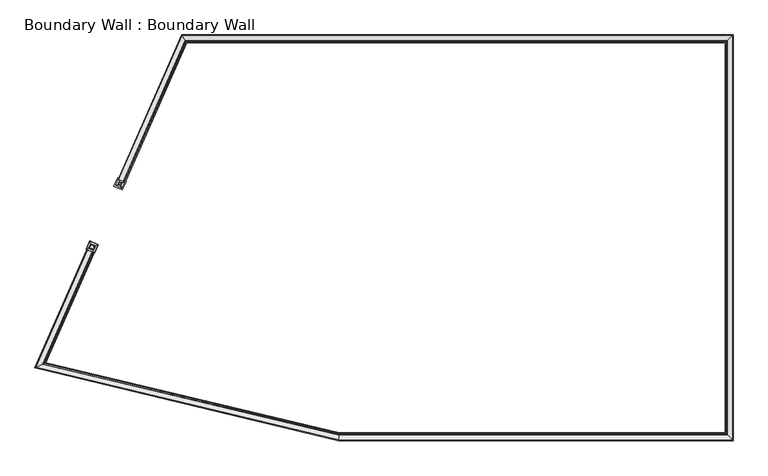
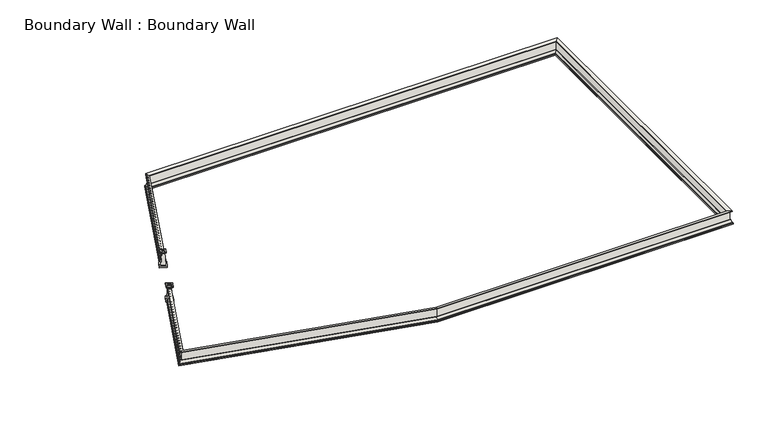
"""IFC4 building model written with IfcOpenShell, lengths in millimetres: wall geometry, Boundary Wall : Boundary Wall."""

from ifc_helpers import new_model, si_unit, origin, origin_with_axes, place, context, project, spatial, polyline, outline, extrude, faceted_brep, source, transform, mapped, element, save


def boundary_wall_boundary_wall_bb9a8aa2(model_context):
    return source(origin(), model_context, "Body", "SolidModel", [
        faceted_brep([(-59276.8997178, -6588.7844489, 3673.3397031), (-59123.4597984, -6983.4127979, 3559.6113653), (-58523.8934099, -5620.9788173, 3559.6113653), (-58918.521759, -5774.4187367, 3673.3397031), (-59351.1438745, -6397.837731, 3237.0053223), (-59351.1438745, -6397.837731, 3673.3397031), (-59109.4684769, -5848.6628934, 3673.3397031), (-59109.4684769, -5848.6628934, 3237.0053223), (-59191.5933372, -6808.1818279, 3291.7285452), (-59269.4602386, -6607.9178622, 3237.0053223), (-58899.3883457, -5766.9792575, 3237.0053223), (-58699.12438, -5689.1123561, 3291.7285452), (-59191.5933372, -6808.1818279, 3371.7285452), (-58699.12438, -5689.1123561, 3371.7285452), (-59123.4597984, -6983.4127979, 3419.6113653), (-58523.8934099, -5620.9788173, 3419.6113653), (-59886.3273906, -5021.4124288, 3559.6113653), (-59732.8874712, -5416.0407779, 3673.3397031), (-59658.6433145, -5606.9874958, 3673.3397031), (-59658.6433145, -5606.9874958, 3237.0053223), (-59740.3269504, -5396.9073646, 3237.0053223), (-59818.1938518, -5196.6433989, 3291.7285452), (-59818.1938518, -5196.6433989, 3371.7285452), (-59886.3273906, -5021.4124288, 3419.6113653), (-60485.893779, -6383.8464095, 3559.6113653), (-60091.26543, -6230.4064901, 3673.3397031), (-59900.3187121, -6156.1623334, 3673.3397031), (-59900.3187121, -6156.1623334, 3237.0053223), (-60110.3988433, -6237.8459693, 3237.0053223), (-60310.662809, -6315.7128707, 3291.7285452), (-60310.662809, -6315.7128707, 3371.7285452), (-60485.893779, -6383.8464095, 3419.6113653)], [[[0, 1, 2, 3]], [[4, 5, 6, 7]], [[8, 9, 10, 11]], [[12, 8, 11, 13]], [[14, 12, 13, 15]], [[1, 14, 15, 2]], [[3, 2, 16, 17]], [[7, 6, 18, 19]], [[11, 10, 20, 21]], [[13, 11, 21, 22]], [[15, 13, 22, 23]], [[2, 15, 23, 16]], [[17, 16, 24, 25]], [[19, 18, 26, 27]], [[21, 20, 28, 29]], [[22, 21, 29, 30]], [[23, 22, 30, 31]], [[16, 23, 31, 24]], [[25, 24, 1, 0]], [[3, 17, 25, 0], [5, 26, 18, 6]], [[27, 26, 5, 4]], [[9, 28, 20, 10], [7, 19, 27, 4]], [[29, 28, 9, 8]], [[30, 29, 8, 12]], [[31, 30, 12, 14]], [[24, 31, 14, 1]]]),
        faceted_brep([(-59351.1438745, -6397.837731, 3456.5358588), (-59109.4684769, -5848.6628934, 3456.5358588), (-59658.6433145, -5606.9874958, 3456.5358588), (-59900.3187121, -6156.1623334, 3456.5358588), (-59248.6440612, -6661.454476, 400.0), (-60163.9354571, -6258.6621467, 400.0), (-59761.1431278, -5343.3707508, 400.0), (-58845.8517319, -5746.1630801, 400.0)], [[[0, 1, 2, 3]], [[4, 5, 6, 7]], [[4, 7, 1, 0]], [[7, 6, 2, 1]], [[6, 5, 3, 2]], [[5, 4, 0, 3]]]),
        extrude(outline(polyline([(-59094.8943412, -7056.8795936), (-60559.3605747, -6412.4118666), (-59914.8928477, -4947.9456332), (-58450.4266143, -5592.4133601), (-59094.8943412, -7056.8795936)])), origin_with_axes(), (0.0, 0.0, 1.0), 400.0),
        faceted_brep([(-60412.1494802, -6490.5078913, -50.0), (-60412.1494802, -6490.5078913, 170.0), (-60302.3260093, -6538.8690868, 170.0), (-60302.3260093, -6538.8690868, 270.0), (-60229.110362, -6571.1098838, 270.0), (-60074.6180327, -6639.1411861, 900.0), (-59928.1867381, -6703.6227802, 900.0), (-59928.1867381, -6703.6227802, 2900.0), (-60001.4023854, -6671.3819832, 2900.0), (-60001.4023854, -6671.3819832, 2940.0), (-60266.6057026, -6554.5986637, 3017.6457135), (-60266.6057026, -6554.5986637, 3162.5843788), (-59582.9541202, -6855.6473156, 2962.4261927), (-59582.9541202, -6855.6473156, 2852.0015247), (-59653.6280608, -6824.525769, 2872.6933041), (-59653.6280608, -6824.525769, 900.0), (-59507.1967662, -6889.0073631, 900.0), (-59352.7044369, -6957.0386654, 270.0), (-59279.4887897, -6989.2794624, 270.0), (-59279.4887897, -6989.2794624, 170.0), (-59169.6653187, -7037.6406579, 170.0), (-59169.6653187, -7037.6406579, -50.0), (-69526.2782327, -27187.7888998, -50.0), (-69526.2782327, -27187.7888998, 170.0), (-16404.219745, -39902.6148653, 170.0), (52662.4134102, -39902.6148653, 170.0), (52662.4134102, 31097.3851347, 170.0), (-43860.1735742, 31097.3851347, 170.0), (-54890.3281159, 6048.9998949, 170.0), (-54781.0056724, 5999.5009158, 170.0), (-43781.8965314, 30977.3851347, 170.0), (52542.4134102, 30977.3851347, 170.0), (52542.4134102, -39782.6148653, 170.0), (-16390.0586697, -39782.6148653, 170.0), (-69358.5066746, -27104.555746, 170.0), (-69358.5066746, -27104.555746, 270.0), (-16390.0586697, -39782.6148653, 270.0), (52542.4134102, -39782.6148653, 270.0), (52542.4134102, 30977.3851347, 270.0), (-43781.8965314, 30977.3851347, 270.0), (-54781.0056724, 5999.5009158, 270.0), (-54708.1240434, 5966.5015964, 270.0), (-43729.7118362, 30897.3851347, 270.0), (52462.4134102, 30897.3851347, 270.0), (52462.4134102, -39702.6148653, 270.0), (-16380.6179528, -39702.6148653, 270.0), (-69246.6589693, -27049.0669768, 270.0), (-69010.6491384, -26931.980131, 900.0), (-16360.6970972, -39533.806874, 900.0), (52293.6054189, -39533.806874, 900.0), (52293.6054189, 30728.5771435, 900.0), (-43619.5969165, 30728.5771435, 900.0), (-54688.4318976, 5592.3524684, 900.0), (-54542.6686396, 5526.3538296, 900.0), (-43515.2275261, 30568.5771435, 900.0), (52133.6054189, 30568.5771435, 900.0), (52133.6054189, -39373.806874, 900.0), (-16341.8156634, -39373.806874, 900.0), (-68786.9537277, -26821.0025926, 900.0), (-68786.9537277, -26821.0025926, 2900.0), (-16341.8156634, -39373.806874, 2900.0), (52133.6054189, -39373.806874, 2900.0), (52133.6054189, 30568.5771435, 2900.0), (-43515.2275261, 30568.5771435, 2900.0), (-54595.4122172, 5406.5784045, 2900.0), (-54668.2938461, 5439.5777239, 2900.0), (-43567.4122213, 30648.5771435, 2900.0), (52213.6054189, 30648.5771435, 2900.0), (52213.6054189, -39453.806874, 2900.0), (-16351.2563803, -39453.806874, 2900.0), (-68898.8014331, -26876.4913618, 2900.0), (-68898.8014331, -26876.4913618, 2940.0), (-69303.9386352, -27077.483994, 3017.6457135), (-69303.9386352, -27077.483994, 3162.5843788), (-68259.5599593, -26559.3572509, 2962.4261927), (-68259.5599593, -26559.3572509, 2852.0015247), (-68367.5248326, -26612.9197081, 2872.6933041), (-68367.5248326, -26612.9197081, 900.0), (-16306.4129752, -39073.806874, 900.0), (51833.6054189, -39073.806874, 900.0), (51833.6054189, 30268.5771435, 900.0), (-43319.5349191, 30268.5771435, 900.0), (-54269.362531, 5402.6063817, 900.0), (-54123.599273, 5336.6077429, 900.0), (-43215.1655287, 30108.5771435, 900.0), (51673.6054189, 30108.5771435, 900.0), (51673.6054189, -38913.806874, 900.0), (-16287.5315415, -38913.806874, 900.0), (-68143.8294219, -26501.9421698, 900.0), (-67907.8195911, -26384.855324, 270.0), (-16267.6106858, -38744.9988828, 270.0), (51504.7974277, -38744.9988828, 270.0), (51504.7974277, 29939.7691523, 270.0), (-43105.0506091, 29939.7691523, 270.0), (-53835.7163843, 5571.4931502, 270.0), (-53762.8347553, 5538.4938308, 270.0), (-43052.8659138, 29859.7691523, 270.0), (51424.7974277, 29859.7691523, 270.0), (51424.7974277, -38664.9988828, 270.0), (-16258.169969, -38664.9988828, 270.0), (-67795.9718857, -26329.3665548, 270.0), (-67795.9718857, -26329.3665548, 170.0), (-16258.169969, -38664.9988828, 170.0), (51424.7974277, -38664.9988828, 170.0), (51424.7974277, 29859.7691523, 170.0), (-43052.8659138, 29859.7691523, 170.0), (-53762.8347553, 5538.4938308, 170.0), (-53653.5123118, 5488.9948517, 170.0), (-42974.588871, 29739.7691523, 170.0), (51304.7974277, 29739.7691523, 170.0), (51304.7974277, -38544.9988828, 170.0), (-16244.0088937, -38544.9988828, 170.0), (-67628.2003277, -26246.133401, 170.0), (-67628.2003277, -26246.133401, -50.0), (-16244.0088937, -38544.9988828, -50.0), (51304.7974277, -38544.9988828, -50.0), (51304.7974277, 29739.7691523, -50.0), (-42974.588871, 29739.7691523, -50.0), (-53840.2820446, 5064.8593421, -50.0), (-55082.7662061, 5611.9921087, -50.0), (-43860.1735742, 31097.3851347, -50.0), (52662.4134102, 31097.3851347, -50.0), (52662.4134102, -39902.6148653, -50.0), (-16404.219745, -39902.6148653, -50.0), (-16351.2563803, -39453.806874, 2940.0), (-16385.4527512, -39743.5846219, 3017.6457135), (-16385.4527512, -39743.5846219, 3162.5843788), (-16297.2999961, -38996.5841019, 2962.4261927), (-16297.2999961, -38996.5841019, 2852.0015247), (-16306.4129752, -39073.806874, 2872.6933041), (52213.6054189, -39453.806874, 2940.0), (52503.3831668, -39743.5846219, 3017.6457135), (52503.3831668, -39743.5846219, 3162.5843788), (51756.3826468, -38996.5841019, 2962.4261927), (51756.3826468, -38996.5841019, 2852.0015247), (51833.6054189, -39073.806874, 2872.6933041), (52213.6054189, 30648.5771435, 2940.0), (52503.3831668, 30938.3548914, 3017.6457135), (52503.3831668, 30938.3548914, 3162.5843788), (51756.3826468, 30191.3543713, 2962.4261927), (51756.3826468, 30191.3543713, 2852.0015247), (51833.6054189, 30268.5771435, 2872.6933041), (-43567.4122213, 30648.5771435, 2940.0), (-43756.4367645, 30938.3548914, 3017.6457135), (-43756.4367645, 30938.3548914, 3162.5843788), (-43269.1618337, 30191.3543713, 2962.4261927), (-43269.1618337, 30191.3543713, 2852.0015247), (-43319.5349191, 30268.5771435, 2872.6933041), (-53840.2820446, 5064.8593421, 0.0), (-55082.7662061, 5611.9921087, 0.0), (-54937.2224285, 5547.9013363, 3162.5843788), (-54937.2224285, 5547.9013363, 3017.6457135), (-54799.3877309, 5487.2052873, 2977.2907377), (-54794.2900486, 5484.960503, 3062.4114092), (-54307.374879, 5270.545501, 2978.1788332), (-54890.3281159, 6048.9998949, 0.0), (-54676.3901113, 5952.1331173, 400.0), (-54797.2995884, 5677.5597059, 400.0), (-54669.3487177, 5437.1822154, 2940.0), (-54797.0670805, 5492.3330645, 2977.2753833), (-54253.400881, 5247.2386582, 2962.4261927), (-54250.488785, 5253.8517389, 2852.0015247), (-54321.3859821, 5284.4662922, 2872.6933041), (-53988.3597935, 5311.288218, 400.0), (-53867.4503164, 5585.8616293, 400.0), (-53653.5123118, 5488.9948517, 0.0), (-54234.8513107, 5203.3487217, 3456.5358588), (-54781.4341959, 5450.8303364, 3456.5358588), (-55028.9158106, 4904.2474512, 3456.5358588), (-54482.3329254, 4656.7658365, 3456.5358588), (-53970.1631441, 5303.0491452, 400.0), (-54881.1346194, 5715.518503, 400.0), (-55293.6039773, 4804.5470277, 400.0), (-54382.6325019, 4392.0776699, 400.0), (-55030.6852547, 6112.550753, 400.0), (-55690.6362272, 4654.9963925, 400.0), (-54233.0818667, 3995.0454199, 400.0), (-53573.1308942, 5452.5997804, 400.0), (-53573.1308942, 5452.5997804, 0.0), (-54233.0818667, 3995.0454199, 0.0), (-55690.6362272, 4654.9963925, 0.0), (-55030.6852547, 6112.550753, 0.0)], [[[0, 1, 2, 3, 4, 5, 6, 7, 8, 9, 10, 11, 12, 13, 14, 15, 16, 17, 18, 19, 20, 21]], [[1, 0, 22, 23]], [[2, 1, 23, 24, 25, 26, 27, 28, 29, 30, 31, 32, 33, 34]], [[3, 2, 34, 35]], [[4, 3, 35, 36, 37, 38, 39, 40, 41, 42, 43, 44, 45, 46]], [[5, 4, 46, 47]], [[6, 5, 47, 48, 49, 50, 51, 52, 53, 54, 55, 56, 57, 58]], [[7, 6, 58, 59]], [[8, 7, 59, 60, 61, 62, 63, 64, 65, 66, 67, 68, 69, 70]], [[9, 8, 70, 71]], [[10, 9, 71, 72]], [[11, 10, 72, 73]], [[12, 11, 73, 74]], [[13, 12, 74, 75]], [[14, 13, 75, 76]], [[15, 14, 76, 77]], [[16, 15, 77, 78, 79, 80, 81, 82, 83, 84, 85, 86, 87, 88]], [[17, 16, 88, 89]], [[18, 17, 89, 90, 91, 92, 93, 94, 95, 96, 97, 98, 99, 100]], [[19, 18, 100, 101]], [[20, 19, 101, 102, 103, 104, 105, 106, 107, 108, 109, 110, 111, 112]], [[21, 20, 112, 113]], [[0, 21, 113, 114, 115, 116, 117, 118, 119, 120, 121, 122, 123, 22]], [[23, 22, 123, 24]], [[34, 33, 36, 35]], [[46, 45, 48, 47]], [[58, 57, 60, 59]], [[70, 69, 124, 71]], [[72, 71, 124, 125]], [[73, 72, 125, 126]], [[74, 73, 126, 127]], [[75, 74, 127, 128]], [[76, 75, 128, 129]], [[77, 76, 129, 78]], [[88, 87, 90, 89]], [[100, 99, 102, 101]], [[112, 111, 114, 113]], [[25, 24, 123, 122]], [[33, 32, 37, 36]], [[45, 44, 49, 48]], [[57, 56, 61, 60]], [[69, 68, 130, 124]], [[125, 124, 130, 131]], [[126, 125, 131, 132]], [[127, 126, 132, 133]], [[128, 127, 133, 134]], [[129, 128, 134, 135]], [[79, 78, 129, 135]], [[87, 86, 91, 90]], [[99, 98, 103, 102]], [[111, 110, 115, 114]], [[26, 25, 122, 121]], [[32, 31, 38, 37]], [[44, 43, 50, 49]], [[56, 55, 62, 61]], [[68, 67, 136, 130]], [[131, 130, 136, 137]], [[132, 131, 137, 138]], [[133, 132, 138, 139]], [[134, 133, 139, 140]], [[135, 134, 140, 141]], [[80, 79, 135, 141]], [[86, 85, 92, 91]], [[98, 97, 104, 103]], [[110, 109, 116, 115]], [[27, 26, 121, 120]], [[31, 30, 39, 38]], [[43, 42, 51, 50]], [[55, 54, 63, 62]], [[67, 66, 142, 136]], [[137, 136, 142, 143]], [[138, 137, 143, 144]], [[139, 138, 144, 145]], [[140, 139, 145, 146]], [[141, 140, 146, 147]], [[81, 80, 141, 147]], [[85, 84, 93, 92]], [[97, 96, 105, 104]], [[109, 108, 117, 116]], [[119, 118, 148, 149]], [[150, 151, 152, 153, 154]], [[120, 119, 149, 155, 28, 27]], [[39, 30, 29, 40]], [[51, 42, 41, 156, 157, 52]], [[63, 54, 53, 64]], [[142, 66, 65, 158]], [[143, 142, 158, 159, 152, 151]], [[144, 143, 151, 150]], [[145, 144, 150, 154, 160]], [[146, 145, 160, 161]], [[147, 146, 161, 162]], [[81, 147, 162, 82]], [[93, 84, 83, 163, 164, 94]], [[105, 96, 95, 106]], [[118, 117, 108, 107, 165, 148]], [[166, 167, 168, 169]], [[167, 166, 170, 163, 83, 82, 162, 161, 160, 154, 153]], [[171, 159, 158, 65, 64, 53, 52, 157]], [[168, 167, 153, 152, 159, 171, 172]], [[169, 168, 172, 173]], [[166, 169, 173, 170]], [[174, 175, 176, 177, 164, 163, 170, 173, 172, 171, 157, 156]], [[178, 179, 180, 181, 155, 149, 148, 165]], [[177, 178, 165, 107, 106, 95, 94, 164]], [[181, 174, 156, 41, 40, 29, 28, 155]], [[175, 174, 181, 180]], [[176, 175, 180, 179]], [[177, 176, 179, 178]]]),
        faceted_brep([(-54234.8513107, 5203.3487217, 3456.5358588), (-54215.8405293, 5210.5095366, 3237.0053223), (-54475.1721106, 4637.755055, 3237.0053223), (-54482.3329254, 4656.7658365, 3456.5358588), (-54420.1330274, 5133.5584252, 3613.3397031), (-54420.1330274, 5133.5584252, 3456.5358588), (-54552.1232219, 4842.0475531, 3456.5358588), (-54552.1232219, 4842.0475531, 3613.3397031), (-54234.8513107, 5203.3487217, 3673.3397031), (-54234.8513107, 5203.3487217, 3613.3397031), (-54482.3329254, 4656.7658365, 3613.3397031), (-54482.3329254, 4656.7658365, 3673.3397031), (-53842.7522538, 5351.0411649, 3559.6113653), (-54334.6404822, 4264.6667796, 3559.6113653), (-53842.7522538, 5351.0411649, 3419.6113653), (-54334.6404822, 4264.6667796, 3419.6113653), (-54016.8601157, 5285.4597384, 3371.7285452), (-54400.2219088, 4438.7746414, 3371.7285452), (-54016.8601157, 5285.4597384, 3291.7285452), (-54400.2219088, 4438.7746414, 3291.7285452), (-55047.9265921, 4897.0866363, 3237.0053223), (-55028.9158106, 4904.2474512, 3456.5358588), (-54843.634094, 4974.0377476, 3456.5358588), (-54843.634094, 4974.0377476, 3613.3397031), (-55028.9158106, 4904.2474512, 3613.3397031), (-55028.9158106, 4904.2474512, 3673.3397031), (-55421.0148676, 4756.5550079, 3559.6113653), (-55421.0148676, 4756.5550079, 3419.6113653), (-55246.9070057, 4822.1364345, 3371.7285452), (-55246.9070057, 4822.1364345, 3291.7285452), (-54788.5950108, 5469.8411178, 3237.0053223), (-54781.4341959, 5450.8303364, 3456.5358588), (-54711.6438995, 5265.5486197, 3456.5358588), (-54711.6438995, 5265.5486197, 3613.3397031), (-54781.4341959, 5450.8303364, 3613.3397031), (-54781.4341959, 5450.8303364, 3673.3397031), (-54929.1266392, 5842.9293933, 3559.6113653), (-54929.1266392, 5842.9293933, 3419.6113653), (-54863.5452126, 5668.8215314, 3371.7285452), (-54863.5452126, 5668.8215314, 3291.7285452)], [[[0, 1, 2, 3]], [[4, 5, 6, 7]], [[8, 9, 10, 11]], [[12, 8, 11, 13]], [[14, 12, 13, 15]], [[16, 14, 15, 17]], [[18, 16, 17, 19]], [[1, 18, 19, 2]], [[3, 2, 20, 21]], [[7, 6, 22, 23]], [[11, 10, 24, 25]], [[13, 11, 25, 26]], [[15, 13, 26, 27]], [[17, 15, 27, 28]], [[19, 17, 28, 29]], [[2, 19, 29, 20]], [[21, 20, 30, 31]], [[23, 22, 32, 33]], [[25, 24, 34, 35]], [[26, 25, 35, 36]], [[27, 26, 36, 37]], [[28, 27, 37, 38]], [[29, 28, 38, 39]], [[20, 29, 39, 30]], [[31, 30, 1, 0]], [[3, 21, 31, 0], [5, 32, 22, 6]], [[33, 32, 5, 4]], [[9, 34, 24, 10], [7, 23, 33, 4]], [[35, 34, 9, 8]], [[36, 35, 8, 12]], [[37, 36, 12, 14]], [[38, 37, 14, 16]], [[39, 38, 16, 18]], [[30, 39, 18, 1]]]),
    ])


if __name__ == "__main__":
    model = new_model("IFC4")
    model_context = context("Model", 3, world=origin())
    ifc_project = project(units=[si_unit("LENGTHUNIT", "METRE", prefix="MILLI")], contexts=[model_context])
    site = spatial("IfcSite", under=ifc_project)
    building = spatial("IfcBuilding", under=site)
    placement = place(None, origin())
    boundary_wall_boundary_wall_shape = boundary_wall_boundary_wall_bb9a8aa2(model_context)
    element("IfcWall", 1, ObjectType="Boundary Wall : Boundary Wall", at=placement, inside=building, context=model_context, shape_type="MappedRepresentation", body=[
        mapped(boundary_wall_boundary_wall_shape, transform((0.0, 0.0, 0.0), x_axis=(1.0, 0.0, 0.0), y_axis=(0.0, 1.0, 0.0), z_axis=(0.0, 0.0, 1.0))),
    ])
    save(model, "model.ifc")
